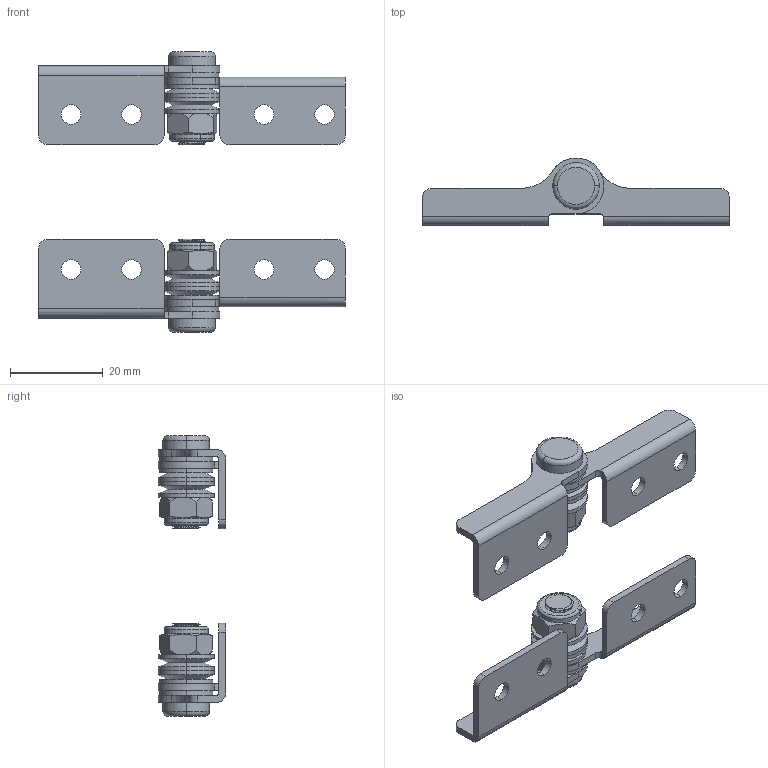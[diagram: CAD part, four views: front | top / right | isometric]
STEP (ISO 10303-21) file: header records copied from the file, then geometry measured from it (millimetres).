
FILE_DESCRIPTION (( 'STEP AP203' ), '1' );
FILE_NAME ('XG11-006.STEP', '2023-12-04T06:05:48', ( '' ), ( '' ), 'SwSTEP 2.0', 'SolidWorks 2020', '' );
FILE_SCHEMA (( 'CONFIG_CONTROL_DESIGN' ));
Length unit declared in the file: millimetre
Products named in the file (7): XG11-006; 噩砃DP027(2); 噩砃____1; DP027(2); ____1; 噩砃M6________^噩砃DP027(2); M6________^DP027(2)
Assembly tree (6 placements, depth 3):
  XG11-006
    DP027(2)
      ____1
      M6________^DP027(2)
    噩砃DP027(2)
      噩砃____1
      噩砃M6________^噩砃DP027(2)
Bounding box: 66 x 14.5 x 60.32 mm (x, y, z)
Volume: 6945 mm3; surface area: 10888.4 mm2
Topology: 18 solids, 18 shells, 376 faces, 972 edges, 634 vertices
Faces by surface type: cylinder 242, plane 92, bspline 18, cone 16, torus 8
Entity records: 23666 total; most frequent: CARTESIAN_POINT 14452, ORIENTED_EDGE 1944, DIRECTION 1624, EDGE_CURVE 972, VERTEX_POINT 634, AXIS2_PLACEMENT_3D 617, EDGE_LOOP 426, LINE 390
